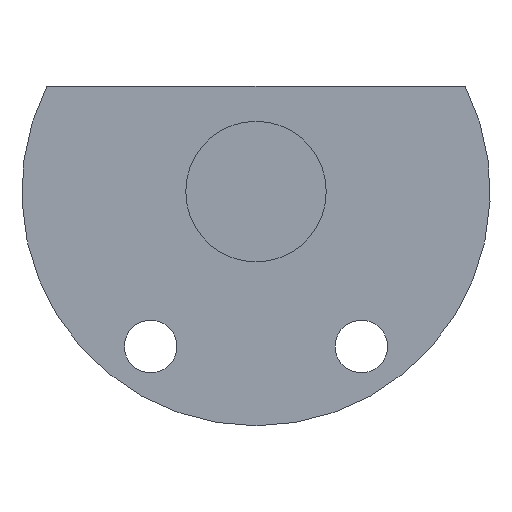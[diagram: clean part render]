
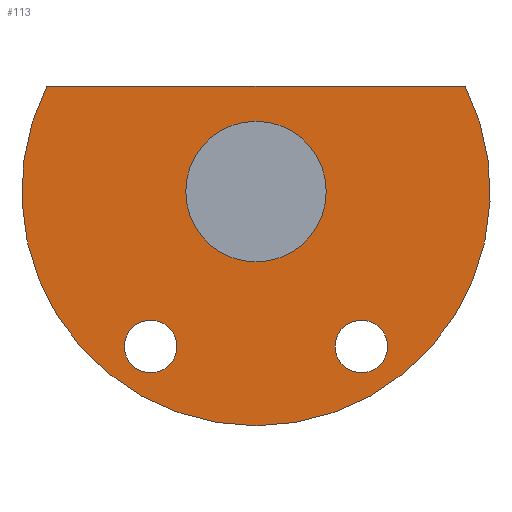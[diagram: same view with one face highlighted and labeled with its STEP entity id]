
A CAD part, front view. The second image highlights one B-rep face of the part: STEP entity #113.
In plain terms, the highlighted planar face has unit normal (0, -1, 0).
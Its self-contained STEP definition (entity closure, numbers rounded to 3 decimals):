
#24 = VERTEX_POINT('',#25);
#25 = CARTESIAN_POINT('',(-17.861,-1536.,9.));
#31 = EDGE_CURVE('',#24,#32,#34,.T.);
#32 = VERTEX_POINT('',#33);
#33 = CARTESIAN_POINT('',(17.861,-1536.,9.));
#34 = CIRCLE('',#35,20.);
#35 = AXIS2_PLACEMENT_3D('',#36,#37,#38);
#36 = CARTESIAN_POINT('',(0.,-1536.,0.));
#37 = DIRECTION('',(0.,-1.,0.));
#38 = DIRECTION('',(1.,0.,0.));
#64 = EDGE_CURVE('',#24,#32,#65,.T.);
#65 = LINE('',#66,#67);
#66 = CARTESIAN_POINT('',(-17.861,-1536.,9.));
#67 = VECTOR('',#68,1.);
#68 = DIRECTION('',(1.,0.,0.));
#113 = ADVANCED_FACE('',(#114,#118,#129,#140),#151,.F.);
#114 = FACE_BOUND('',#115,.F.);
#115 = EDGE_LOOP('',(#116,#117));
#116 = ORIENTED_EDGE('',*,*,#31,.F.);
#117 = ORIENTED_EDGE('',*,*,#64,.T.);
#118 = FACE_BOUND('',#119,.F.);
#119 = EDGE_LOOP('',(#120));
#120 = ORIENTED_EDGE('',*,*,#121,.T.);
#121 = EDGE_CURVE('',#122,#122,#124,.T.);
#122 = VERTEX_POINT('',#123);
#123 = CARTESIAN_POINT('',(-6.75,-1536.,-13.229));
#124 = CIRCLE('',#125,2.25);
#125 = AXIS2_PLACEMENT_3D('',#126,#127,#128);
#126 = CARTESIAN_POINT('',(-9.,-1536.,-13.229));
#127 = DIRECTION('',(0.,-1.,0.));
#128 = DIRECTION('',(1.,0.,0.));
#129 = FACE_BOUND('',#130,.F.);
#130 = EDGE_LOOP('',(#131));
#131 = ORIENTED_EDGE('',*,*,#132,.T.);
#132 = EDGE_CURVE('',#133,#133,#135,.T.);
#133 = VERTEX_POINT('',#134);
#134 = CARTESIAN_POINT('',(11.25,-1536.,-13.229));
#135 = CIRCLE('',#136,2.25);
#136 = AXIS2_PLACEMENT_3D('',#137,#138,#139);
#137 = CARTESIAN_POINT('',(9.,-1536.,-13.229));
#138 = DIRECTION('',(0.,-1.,0.));
#139 = DIRECTION('',(1.,0.,0.));
#140 = FACE_BOUND('',#141,.F.);
#141 = EDGE_LOOP('',(#142));
#142 = ORIENTED_EDGE('',*,*,#143,.T.);
#143 = EDGE_CURVE('',#144,#144,#146,.T.);
#144 = VERTEX_POINT('',#145);
#145 = CARTESIAN_POINT('',(6.,-1536.,0.));
#146 = CIRCLE('',#147,6.);
#147 = AXIS2_PLACEMENT_3D('',#148,#149,#150);
#148 = CARTESIAN_POINT('',(0.,-1536.,
    0.));
#149 = DIRECTION('',(0.,-1.,0.));
#150 = DIRECTION('',(1.,0.,0.));
#151 = PLANE('',#152);
#152 = AXIS2_PLACEMENT_3D('',#153,#154,#155);
#153 = CARTESIAN_POINT('',(0.,-1536.,
    -2.11));
#154 = DIRECTION('',(0.,1.,0.));
#155 = DIRECTION('',(0.,0.,1.));
